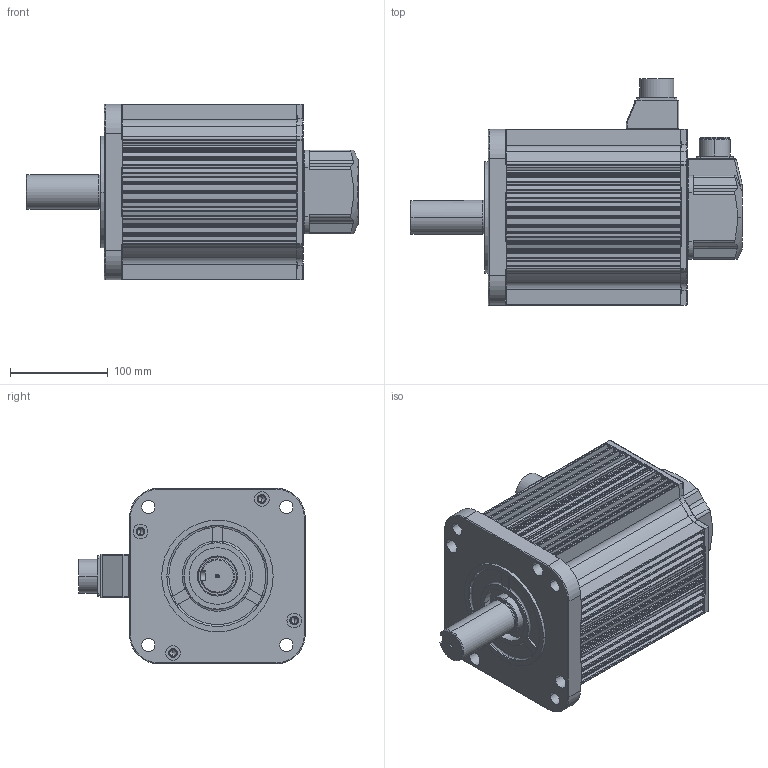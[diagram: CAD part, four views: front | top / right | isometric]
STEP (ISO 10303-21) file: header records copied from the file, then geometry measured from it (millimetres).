
FILE_DESCRIPTION (( 'STEP AP203' ), '1' );
FILE_NAME ('KANH-50B(NB).STEP', '2026-09-12T02:58:51', ( '' ), ( '' ), 'SwSTEP 2.0', 'SolidWorks 2023', '' );
FILE_SCHEMA (( 'CONFIG_CONTROL_DESIGN' ));
Length unit declared in the file: millimetre
Products named in the file (11): MS3102A 22_표준; □180 BRACKET_BR; 1005052200 ENCODER COVER; Ø35-KEY10X50; KANH-50B(NB); 10050908 CONNECTOR BOX_MS22 or MS24; 10050907 RUBBER SEAL_MS22 or MS24; □180-181.5mm(5.0kW,NB,MS22); □180 FLANGE; MS3102A 20-29P; 10050523 GASKET_돌출형
Assembly tree (10 placements, depth 2):
  KANH-50B(NB)
    Ø35-KEY10X50
    □180 FLANGE
    □180-181.5mm(5.0kW,NB,MS22)
    □180 BRACKET_BR
    1005052200 ENCODER COVER
    10050523 GASKET_돌출형
    MS3102A 20-29P
    10050907 RUBBER SEAL_MS22 or MS24
    10050908 CONNECTOR BOX_MS22 or MS24
    MS3102A 22_표준
Bounding box: 340.2 x 232.05 x 180 mm (x, y, z)
Volume: 1656462.5 mm3; surface area: 586589.3 mm2
Topology: 10 solids, 10 shells, 1764 faces, 4830 edges, 3140 vertices
Faces by surface type: cylinder 912, plane 605, torus 122, cone 88, bspline 35, sphere 2
Entity records: 60348 total; most frequent: CARTESIAN_POINT 13359, DIRECTION 10018, ORIENTED_EDGE 9588, EDGE_CURVE 4794, AXIS2_PLACEMENT_3D 3855, VERTEX_POINT 3140, LINE 2308, VECTOR 2308
